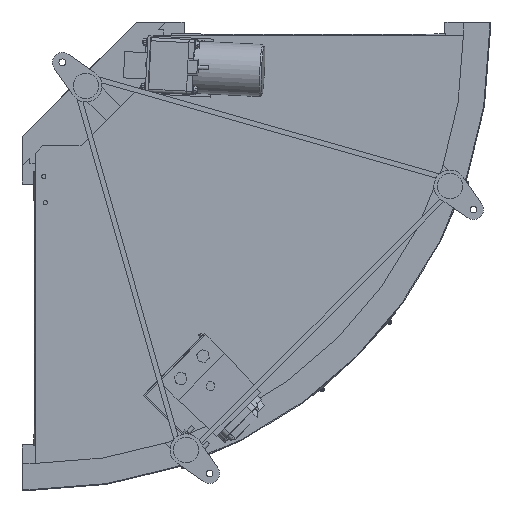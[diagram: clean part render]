
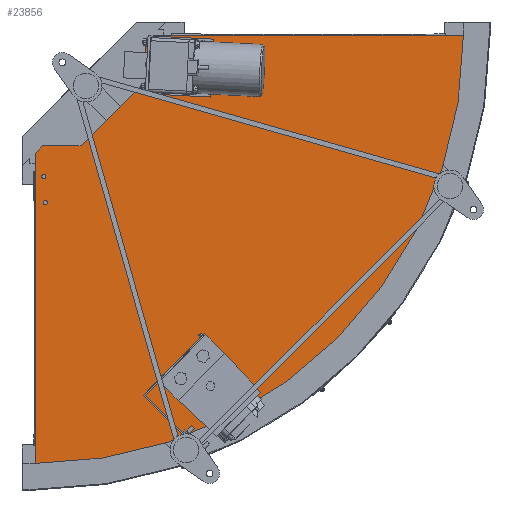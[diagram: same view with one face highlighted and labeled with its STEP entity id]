
A CAD part, front view. The second image highlights one B-rep face of the part: STEP entity #23856.
In plain terms, the highlighted planar face has unit normal (0, -1, 0).
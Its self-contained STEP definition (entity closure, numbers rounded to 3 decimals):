
#343 = AXIS2_PLACEMENT_3D ( 'NONE', #11341, #5484, #2335 ) ;
#440 = EDGE_CURVE ( 'NONE', #14257, #9934, #6687, .T. ) ;
#670 = EDGE_CURVE ( 'NONE', #29768, #17282, #26702, .T. ) ;
#793 = DIRECTION ( 'NONE',  ( 0.707, 0., 0.707 ) ) ;
#928 = FACE_BOUND ( 'NONE', #32372, .T. ) ;
#1897 = DIRECTION ( 'NONE',  ( 0., 0., -1. ) ) ;
#2003 = EDGE_CURVE ( 'NONE', #17282, #8738, #25644, .T. ) ;
#2335 = DIRECTION ( 'NONE',  ( 0., 0., -1. ) ) ;
#2642 = CARTESIAN_POINT ( 'NONE',  ( 16.5, -152.7, -272. ) ) ;
#2645 = DIRECTION ( 'NONE',  ( 0., -1., 0. ) ) ;
#2787 = VECTOR ( 'NONE', #37690, 1000. ) ;
#2958 = CIRCLE ( 'NONE', #343, 4. ) ;
#3245 = FACE_BOUND ( 'NONE', #11249, .T. ) ;
#3455 = VERTEX_POINT ( 'NONE', #30844 ) ;
#3798 = AXIS2_PLACEMENT_3D ( 'NONE', #22023, #21748, #21878 ) ;
#3924 = DIRECTION ( 'NONE',  ( 0., 1., 0. ) ) ;
#4936 = CARTESIAN_POINT ( 'NONE',  ( 268., -152.7, -16.5 ) ) ;
#5174 = ORIENTED_EDGE ( 'NONE', *, *, #37358, .F. ) ;
#5484 = DIRECTION ( 'NONE',  ( 0., -1., 0. ) ) ;
#5491 = VERTEX_POINT ( 'NONE', #17600 ) ;
#6687 = LINE ( 'NONE', #33266, #21552 ) ;
#7381 = DIRECTION ( 'NONE',  ( 0., 0., 1. ) ) ;
#7796 = CARTESIAN_POINT ( 'NONE',  ( 317.937, -152.7, -19. ) ) ;
#7849 = CIRCLE ( 'NONE', #8792, 4. ) ;
#8134 = CARTESIAN_POINT ( 'NONE',  ( 16.5, -152.7, -268. ) ) ;
#8363 = FACE_BOUND ( 'NONE', #31086, .T. ) ;
#8381 = DIRECTION ( 'NONE',  ( 0., 0., 1. ) ) ;
#8414 = AXIS2_PLACEMENT_3D ( 'NONE', #35351, #2645, #23474 ) ;
#8426 = VERTEX_POINT ( 'NONE', #2642 ) ;
#8538 = LINE ( 'NONE', #31742, #31848 ) ;
#8576 = CARTESIAN_POINT ( 'NONE',  ( 812.5, -152.7, 0. ) ) ;
#8738 = VERTEX_POINT ( 'NONE', #34660 ) ;
#8792 = AXIS2_PLACEMENT_3D ( 'NONE', #32686, #11560, #20512 ) ;
#8930 = ORIENTED_EDGE ( 'NONE', *, *, #13314, .F. ) ;
#8977 = VECTOR ( 'NONE', #9649, 1000. ) ;
#9264 = DIRECTION ( 'NONE',  ( 0., 0., 1. ) ) ;
#9649 = DIRECTION ( 'NONE',  ( 1., 0., 0. ) ) ;
#9934 = VERTEX_POINT ( 'NONE', #29880 ) ;
#10430 = EDGE_CURVE ( 'NONE', #35411, #5491, #2958, .T. ) ;
#10641 = CARTESIAN_POINT ( 'NONE',  ( 19., -152.7, -313.937 ) ) ;
#10658 = VERTEX_POINT ( 'NONE', #28530 ) ;
#11249 = EDGE_LOOP ( 'NONE', ( #19539, #23485 ) ) ;
#11341 = CARTESIAN_POINT ( 'NONE',  ( 317.937, -152.7, -19. ) ) ;
#11509 = DIRECTION ( 'NONE',  ( 0., -1., 0. ) ) ;
#11560 = DIRECTION ( 'NONE',  ( 0., -1., 0. ) ) ;
#12231 = AXIS2_PLACEMENT_3D ( 'NONE', #7796, #31628, #1897 ) ;
#12481 = VERTEX_POINT ( 'NONE', #10641 ) ;
#12675 = ORIENTED_EDGE ( 'NONE', *, *, #37116, .F. ) ;
#12695 = CARTESIAN_POINT ( 'NONE',  ( 0., -152.7, -224.1 ) ) ;
#12902 = VERTEX_POINT ( 'NONE', #36957 ) ;
#12903 = PLANE ( 'NONE',  #27650 ) ;
#13176 = DIRECTION ( 'NONE',  ( 0., 0., 1. ) ) ;
#13314 = EDGE_CURVE ( 'NONE', #8738, #17364, #34483, .T. ) ;
#13598 = EDGE_CURVE ( 'NONE', #12902, #8426, #18095, .T. ) ;
#13977 = VECTOR ( 'NONE', #7381, 1000. ) ;
#14011 = ORIENTED_EDGE ( 'NONE', *, *, #15103, .T. ) ;
#14117 = EDGE_CURVE ( 'NONE', #8426, #12902, #24427, .T. ) ;
#14257 = VERTEX_POINT ( 'NONE', #32717 ) ;
#14483 = VERTEX_POINT ( 'NONE', #24300 ) ;
#14614 = AXIS2_PLACEMENT_3D ( 'NONE', #4936, #19238, #22515 ) ;
#15103 = EDGE_CURVE ( 'NONE', #29768, #9934, #8538, .T. ) ;
#15264 = ORIENTED_EDGE ( 'NONE', *, *, #31193, .F. ) ;
#16235 = FACE_BOUND ( 'NONE', #17351, .T. ) ;
#16897 = CARTESIAN_POINT ( 'NONE',  ( 16.5, -152.7, -268. ) ) ;
#16977 = AXIS2_PLACEMENT_3D ( 'NONE', #38374, #32251, #32517 ) ;
#17022 = DIRECTION ( 'NONE',  ( 0., 0., 1. ) ) ;
#17282 = VERTEX_POINT ( 'NONE', #8576 ) ;
#17351 = EDGE_LOOP ( 'NONE', ( #31633, #22444 ) ) ;
#17364 = VERTEX_POINT ( 'NONE', #12695 ) ;
#17600 = CARTESIAN_POINT ( 'NONE',  ( 317.937, -152.7, -15. ) ) ;
#17895 = EDGE_CURVE ( 'NONE', #19050, #22156, #26512, .T. ) ;
#18095 = CIRCLE ( 'NONE', #21043, 4. ) ;
#18593 = DIRECTION ( 'NONE',  ( 1., 0., 0. ) ) ;
#19033 = VECTOR ( 'NONE', #18593, 1000. ) ;
#19050 = VERTEX_POINT ( 'NONE', #31202 ) ;
#19167 = CARTESIAN_POINT ( 'NONE',  ( 0., -152.7, -812.5 ) ) ;
#19238 = DIRECTION ( 'NONE',  ( 0., -1., 0. ) ) ;
#19539 = ORIENTED_EDGE ( 'NONE', *, *, #10430, .F. ) ;
#20512 = DIRECTION ( 'NONE',  ( 0., 0., 1. ) ) ;
#21043 = AXIS2_PLACEMENT_3D ( 'NONE', #8134, #11509, #8381 ) ;
#21552 = VECTOR ( 'NONE', #9264, 1000. ) ;
#21610 = CARTESIAN_POINT ( 'NONE',  ( 224., -152.7, 0. ) ) ;
#21748 = DIRECTION ( 'NONE',  ( 0., 1., 0. ) ) ;
#21878 = DIRECTION ( 'NONE',  ( 0., 0., 1. ) ) ;
#22023 = CARTESIAN_POINT ( 'NONE',  ( 0., -152.7, 0. ) ) ;
#22156 = VERTEX_POINT ( 'NONE', #34894 ) ;
#22444 = ORIENTED_EDGE ( 'NONE', *, *, #13598, .F. ) ;
#22506 = ORIENTED_EDGE ( 'NONE', *, *, #440, .F. ) ;
#22515 = DIRECTION ( 'NONE',  ( 0., 0., -1. ) ) ;
#23261 = FACE_OUTER_BOUND ( 'NONE', #29031, .T. ) ;
#23474 = DIRECTION ( 'NONE',  ( 0., 0., -1. ) ) ;
#23485 = ORIENTED_EDGE ( 'NONE', *, *, #26912, .F. ) ;
#23524 = EDGE_CURVE ( 'NONE', #19050, #17364, #34988, .T. ) ;
#23676 = ORIENTED_EDGE ( 'NONE', *, *, #2003, .F. ) ;
#23682 = EDGE_CURVE ( 'NONE', #3455, #10658, #30298, .T. ) ;
#23856 = ADVANCED_FACE ( 'NONE', ( #3245, #8363, #16235, #928, #23261 ), #12903, .F. ) ;
#23956 = CIRCLE ( 'NONE', #12231, 4. ) ;
#23972 = ORIENTED_EDGE ( 'NONE', *, *, #23682, .F. ) ;
#24300 = CARTESIAN_POINT ( 'NONE',  ( 19., -152.7, -321.937 ) ) ;
#24427 = CIRCLE ( 'NONE', #34842, 4. ) ;
#25146 = ORIENTED_EDGE ( 'NONE', *, *, #31130, .F. ) ;
#25644 = CIRCLE ( 'NONE', #3798, 812.5 ) ;
#26152 = CARTESIAN_POINT ( 'NONE',  ( 224.1, -152.7, 0. ) ) ;
#26512 = LINE ( 'NONE', #27765, #19033 ) ;
#26702 = LINE ( 'NONE', #21610, #8977 ) ;
#26912 = EDGE_CURVE ( 'NONE', #5491, #35411, #23956, .T. ) ;
#27579 = VECTOR ( 'NONE', #793, 1000. ) ;
#27650 = AXIS2_PLACEMENT_3D ( 'NONE', #33510, #3924, #13176 ) ;
#27765 = CARTESIAN_POINT ( 'NONE',  ( 86.985, -152.7, -210. ) ) ;
#28530 = CARTESIAN_POINT ( 'NONE',  ( 268., -152.7, -20.5 ) ) ;
#29031 = EDGE_LOOP ( 'NONE', ( #14011, #22506, #25146, #37540, #36228, #8930, #23676, #34435 ) ) ;
#29768 = VERTEX_POINT ( 'NONE', #26152 ) ;
#29880 = CARTESIAN_POINT ( 'NONE',  ( 210., -152.7, -14.1 ) ) ;
#30298 = CIRCLE ( 'NONE', #8414, 4. ) ;
#30844 = CARTESIAN_POINT ( 'NONE',  ( 268., -152.7, -12.5 ) ) ;
#31086 = EDGE_LOOP ( 'NONE', ( #5174, #12675 ) ) ;
#31130 = EDGE_CURVE ( 'NONE', #22156, #14257, #35514, .T. ) ;
#31193 = EDGE_CURVE ( 'NONE', #10658, #3455, #34571, .T. ) ;
#31202 = CARTESIAN_POINT ( 'NONE',  ( 14.1, -152.7, -210. ) ) ;
#31628 = DIRECTION ( 'NONE',  ( 0., -1., 0. ) ) ;
#31633 = ORIENTED_EDGE ( 'NONE', *, *, #14117, .F. ) ;
#31742 = CARTESIAN_POINT ( 'NONE',  ( 112.05, -152.7, -112.05 ) ) ;
#31848 = VECTOR ( 'NONE', #38118, 1000. ) ;
#32110 = CARTESIAN_POINT ( 'NONE',  ( 112.05, -152.7, -112.05 ) ) ;
#32251 = DIRECTION ( 'NONE',  ( 0., -1., 0. ) ) ;
#32372 = EDGE_LOOP ( 'NONE', ( #15264, #23972 ) ) ;
#32517 = DIRECTION ( 'NONE',  ( 0., 0., 1. ) ) ;
#32686 = CARTESIAN_POINT ( 'NONE',  ( 19., -152.7, -317.937 ) ) ;
#32717 = CARTESIAN_POINT ( 'NONE',  ( 210., -152.7, -86.985 ) ) ;
#33266 = CARTESIAN_POINT ( 'NONE',  ( 210., -152.7, -14.1 ) ) ;
#33510 = CARTESIAN_POINT ( 'NONE',  ( 0., -152.7, 0. ) ) ;
#34435 = ORIENTED_EDGE ( 'NONE', *, *, #670, .F. ) ;
#34483 = LINE ( 'NONE', #19167, #13977 ) ;
#34571 = CIRCLE ( 'NONE', #14614, 4. ) ;
#34660 = CARTESIAN_POINT ( 'NONE',  ( 0., -152.7, -812.5 ) ) ;
#34842 = AXIS2_PLACEMENT_3D ( 'NONE', #16897, #37778, #17022 ) ;
#34894 = CARTESIAN_POINT ( 'NONE',  ( 86.985, -152.7, -210. ) ) ;
#34988 = LINE ( 'NONE', #32110, #2787 ) ;
#35351 = CARTESIAN_POINT ( 'NONE',  ( 268., -152.7, -16.5 ) ) ;
#35411 = VERTEX_POINT ( 'NONE', #37990 ) ;
#35514 = LINE ( 'NONE', #36593, #27579 ) ;
#36228 = ORIENTED_EDGE ( 'NONE', *, *, #23524, .T. ) ;
#36593 = CARTESIAN_POINT ( 'NONE',  ( 210., -152.7, -86.985 ) ) ;
#36755 = CIRCLE ( 'NONE', #16977, 4. ) ;
#36957 = CARTESIAN_POINT ( 'NONE',  ( 16.5, -152.7, -264. ) ) ;
#37116 = EDGE_CURVE ( 'NONE', #12481, #14483, #36755, .T. ) ;
#37358 = EDGE_CURVE ( 'NONE', #14483, #12481, #7849, .T. ) ;
#37540 = ORIENTED_EDGE ( 'NONE', *, *, #17895, .F. ) ;
#37690 = DIRECTION ( 'NONE',  ( -0.707, 0., -0.707 ) ) ;
#37778 = DIRECTION ( 'NONE',  ( 0., -1., 0. ) ) ;
#37990 = CARTESIAN_POINT ( 'NONE',  ( 317.937, -152.7, -23. ) ) ;
#38118 = DIRECTION ( 'NONE',  ( -0.707, 0., -0.707 ) ) ;
#38374 = CARTESIAN_POINT ( 'NONE',  ( 19., -152.7, -317.937 ) ) ;
